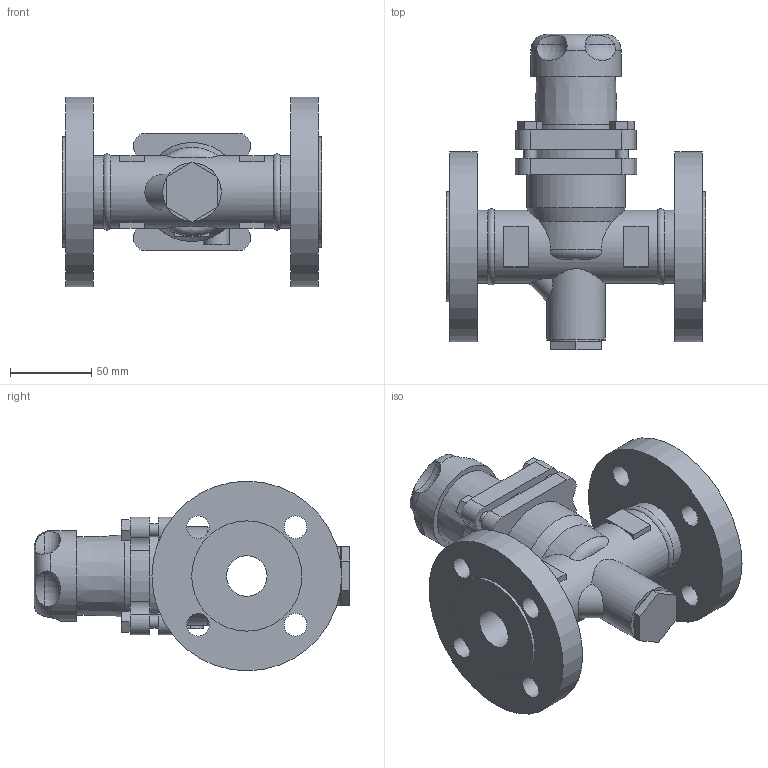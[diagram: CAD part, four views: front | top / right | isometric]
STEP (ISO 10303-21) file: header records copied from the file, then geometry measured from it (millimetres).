
FILE_DESCRIPTION(/* description */ ('Unknown'),/* implementation_level */ '2;1');
FILE_NAME(/* name */ 'SRV2S_DN25_PN25',/* time_stamp */ '2020-04-03T08:56:13+02:00',/* author */ ('Unknown'),/* organization */ ('Unknown'),/* preprocessor_version */ 'ST-DEVELOPER v16.7',/* originating_system */ 'DEX',/* authorisation */ $);
FILE_SCHEMA (('AUTOMOTIVE_DESIGN {1 0 10303 214 3 1 1}'));
Length unit declared in the file: millimetre
Products named in the file (1): SRV2S_DN25_PN25_3,5-8,6bar
Bounding box: 160 x 194.4 x 117 mm (x, y, z)
Volume: 858286.7 mm3; surface area: 124967.4 mm2
Topology: 1 solids, 1 shells, 158 faces, 410 edges, 273 vertices
Faces by surface type: plane 91, cylinder 54, torus 10, cone 3
Full cylindrical faces by diameter (mm): 8 x4, 14 x8, 25 x1, 31 x1, 36 x1, 45 x3, 53 x1, 56 x1, 61 x1, 68 x2, 117 x2
Entity records: 5055 total; most frequent: CARTESIAN_POINT 1273, DIRECTION 764, ORIENTED_EDGE 734, EDGE_CURVE 367, AXIS2_PLACEMENT_3D 287, VERTEX_POINT 264, EDGE_LOOP 237, FACE_BOUND 237
